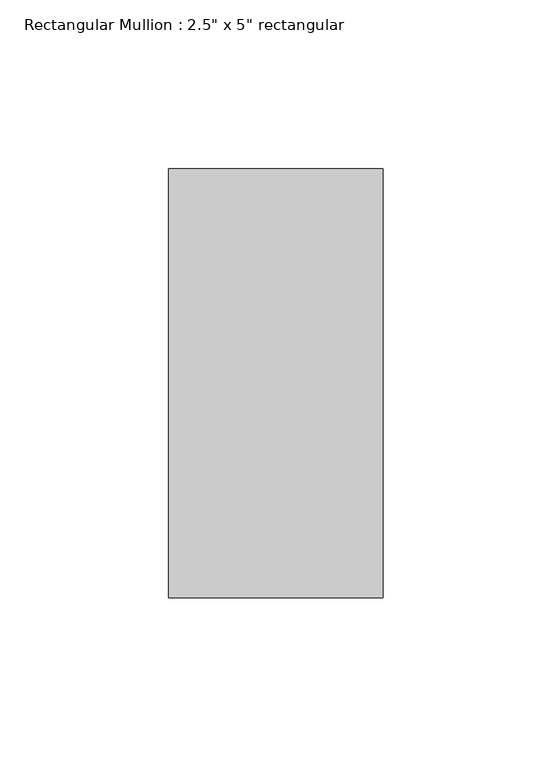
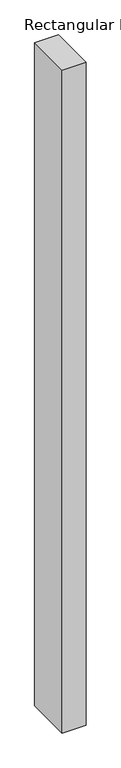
"""IFC4 building model written with IfcOpenShell, lengths in millimetres: member geometry."""

from ifc_helpers import new_model, si_unit, frame, origin, place, context, project, spatial, polyline, outline, extrude, source, transform, mapped, element, save


def member_3a04f99e(model_context):
    return source(origin(), model_context, "Body", "SweptSolid", [
        extrude(outline(polyline([(0.0, 63.5), (0.0, -63.5), (-63.5, -63.5), (-63.5, 63.5), (0.0, 63.5)])), frame((0.0, 0.0, -1866.9), z_axis=(0.0, 0.0, 1.0), x_axis=(1.0, 0.0, 0.0)), (0.0, 0.0, 1.0), 1866.9),
    ])


if __name__ == "__main__":
    model = new_model("IFC4")
    model_context = context("Model", 3, world=origin())
    ifc_project = project(units=[si_unit("LENGTHUNIT", "METRE", prefix="MILLI")], contexts=[model_context])
    site = spatial("IfcSite", under=ifc_project)
    building = spatial("IfcBuilding", under=site)
    placement = place(None, origin())
    member_shape = member_3a04f99e(model_context)
    element("IfcMember", 1, ObjectType="Rectangular Mullion : 2.5\" x 5\" rectangular", at=placement, inside=building, context=model_context, shape_type="MappedRepresentation", body=[
        mapped(member_shape, transform((0.0, 0.0, 0.0), x_axis=(1.0, 0.0, 0.0), y_axis=(0.0, 1.0, 0.0), z_axis=(0.0, 0.0, 1.0))),
    ])
    save(model, "model.ifc")
